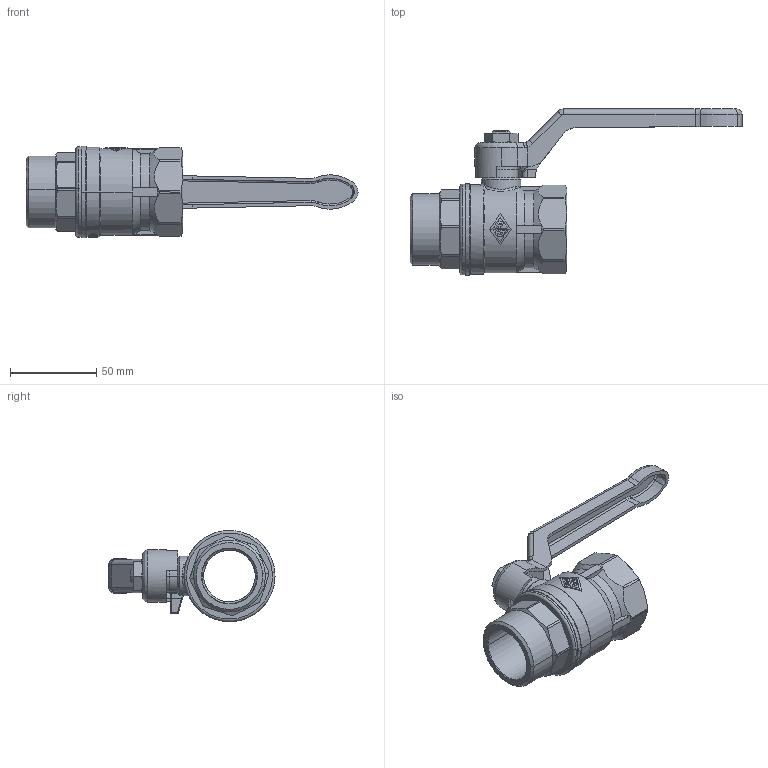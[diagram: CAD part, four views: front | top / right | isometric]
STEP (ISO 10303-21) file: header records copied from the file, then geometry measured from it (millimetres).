
FILE_DESCRIPTION(('OneSpaceDesigner STEP Export'),'2;1');
FILE_NAME('1501070000.stp','2007-10-06T10:51:13',(''),(''),'OneSpace Designer STEP processor for AP214 (Solid Model)','OneSpace Modeling 15.00B 25-Jun-2007 (C) CoCreate Software GmbH','');
FILE_SCHEMA(('AUTOMOTIVE_DESIGN { 1 0 10303 214 1 1 1 1 }'));
Length unit declared in the file: millimetre
Products named in the file (2): 1501070000
Assembly tree (1 placements, depth 2):
  1501070000
    1501070000
Bounding box: 193 x 96.55 x 53 mm (x, y, z)
Volume: 110910.9 mm3; surface area: 42106.8 mm2
Topology: 1 solids, 1 shells, 812 faces, 2208 edges, 1419 vertices
Faces by surface type: plane 464, cylinder 201, cone 77, bspline 41, torus 21, sphere 4, extrusion 4
Entity records: 41428 total; most frequent: CARTESIAN_POINT 20984, ORIENTED_EDGE 4402, DIRECTION 3671, EDGE_CURVE 2201, VERTEX_POINT 1419, AXIS2_PLACEMENT_3D 1371, VECTOR 929, LINE 925
